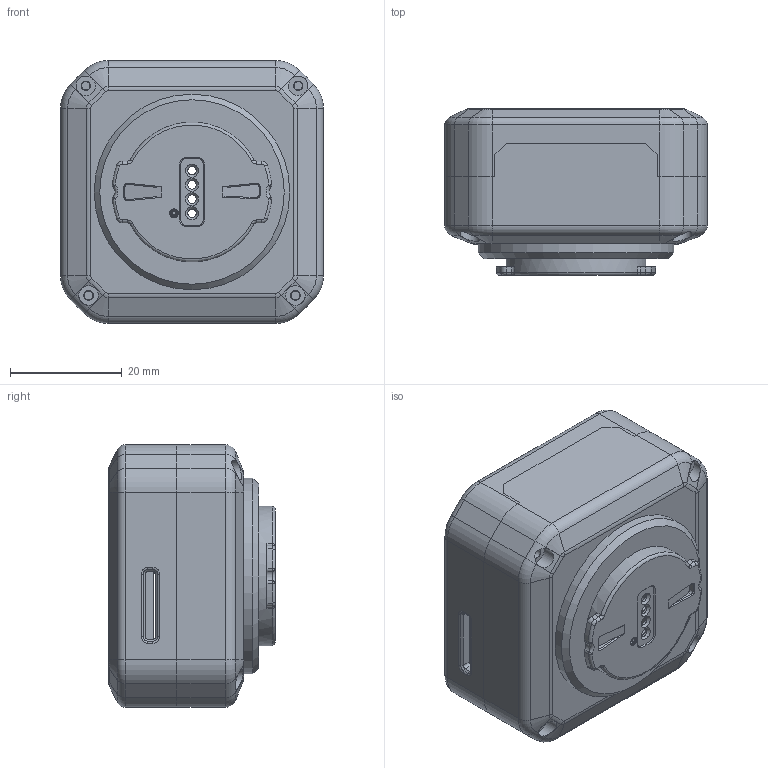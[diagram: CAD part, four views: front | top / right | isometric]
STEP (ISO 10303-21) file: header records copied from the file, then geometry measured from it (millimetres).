
FILE_DESCRIPTION(/* description */ (''),/* implementation_level */ '2;1');
FILE_NAME(/* name */ '',/* time_stamp */ '2023-04-02T00:03:20+08:00',/* author */ (''),/* organization */ (''),/* preprocessor_version */ 'ST-DEVELOPER v19.2',/* originating_system */ 'Autodesk Translation Framework v11.17.0.187',/* authorisation */ '');
FILE_SCHEMA (('AUTOMOTIVE_DESIGN { 1 0 10303 214 3 1 1 }'));
Length unit declared in the file: millimetre
Products named in the file (3): 无标题; 零部件1; 零部件2
Assembly tree (2 placements, depth 2):
  无标题
    零部件1
    零部件2
Bounding box: 47 x 29.8 x 47 mm (x, y, z)
Volume: 19063.6 mm3; surface area: 15279 mm2
Topology: 2 solids, 2 shells, 576 faces, 1371 edges, 811 vertices
Faces by surface type: plane 276, cylinder 162, torus 62, cone 58, bspline 12, sphere 6
Full cylindrical faces by diameter (mm): 1 x1, 1.5 x8, 1.7 x4, 3.5 x4, 25 x1, 35 x1
Entity records: 16610 total; most frequent: DIRECTION 2974, CARTESIAN_POINT 2966, ORIENTED_EDGE 2742, EDGE_CURVE 1371, AXIS2_PLACEMENT_3D 1047, LINE 880, VECTOR 880, VERTEX_POINT 811
